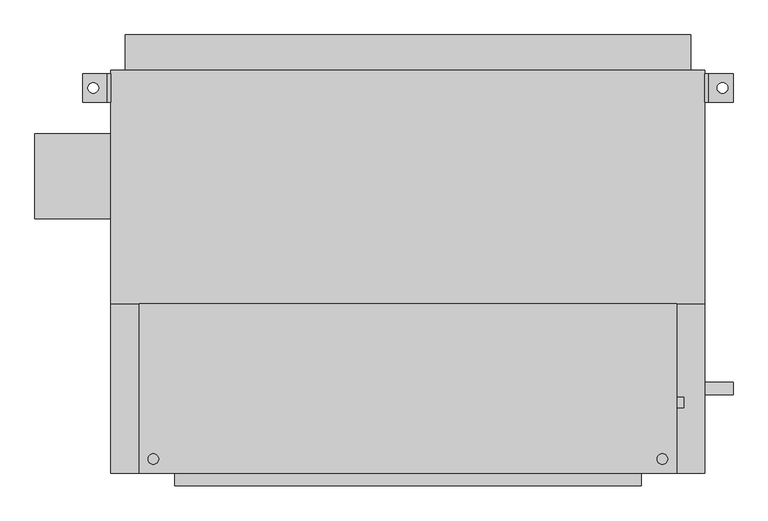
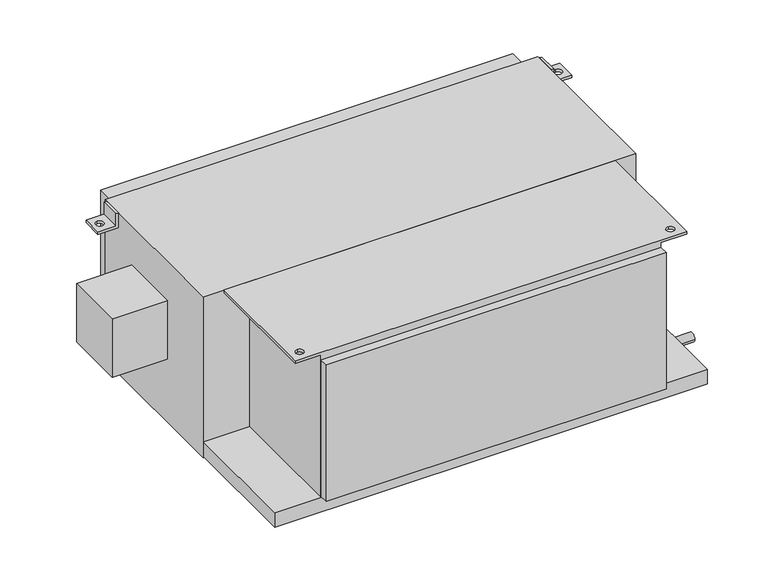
"""IFC4 building model written with IfcOpenShell, lengths in millimetres: proxy geometry, Concealed_High_Capacity_Horizontal_Fan_Coil_Unit_With_Plenum_-_42DCA_-_CARRIER_-_2-Pipe_Cool-EHeat_RH_2022 : Size 14 - 277v/60Hz/1Ph - 6 Row 10.0kW."""

from ifc_helpers import new_model, si_unit, point, frame, frame_2d, origin, place, context, project, spatial, polyline, circle_curve, trimmed, segment, composite_curve, outline, extrude, source, transform, mapped, element, save
from ifc_brep_helpers import plane_surface, revolved_surface, advanced_brep


def mechanical_equipment_4fc60d53(model_context):
    return source(origin(), model_context, "Body", "SolidModel", [
        advanced_brep(
        [(-381.0, 327.025, -38.1), (-431.8, 327.025, -38.1), (-431.8, 327.025, -31.75), (-387.35, 327.025, -31.75), (-387.35, 327.025, 0.0), (-381.0, 327.025, 0.0), (-381.0, 276.225, -38.1), (-381.0, 276.225, 0.0), (-387.35, 276.225, 0.0), (-387.35, 276.225, -31.75), (-431.8, 276.225, -31.75), (-431.8, 276.225, -38.1), (-412.75, 292.1, -38.1), (-412.75, 311.15, -38.1), (-412.75, 311.15, -31.75), (-412.75, 292.1, -31.75)],
        [
            (0, 1),
            (1, 2),
            (2, 3),
            (3, 4),
            (4, 5),
            (5, 0),
            (6, 7),
            (7, 8),
            (8, 9),
            (9, 10),
            (10, 11),
            (11, 6),
            (0, 6),
            (11, 1),
            (12, 13, circle_curve(frame((-412.75, 301.625, -38.1), z_axis=(0.0, 0.0, 1.0), x_axis=(0.0, -1.0, 0.0)), 9.525)),
            (13, 12, circle_curve(frame((-412.75, 301.625, -38.1), z_axis=(0.0, 0.0, 1.0), x_axis=(0.0, -1.0, 0.0)), 9.525)),
            (10, 2),
            (9, 3),
            (14, 15, circle_curve(frame((-412.75, 301.625, -31.75), z_axis=(0.0, 0.0, -1.0), x_axis=(0.0, -1.0, 0.0)), 9.525)),
            (15, 14, circle_curve(frame((-412.75, 301.625, -31.75), z_axis=(0.0, 0.0, -1.0), x_axis=(0.0, -1.0, 0.0)), 9.525)),
            (8, 4),
            (7, 5),
            (14, 13),
            (12, 15),
        ],
        [
            plane_surface(frame((-381.0, 327.025, -38.1), z_axis=(0.0, 1.0, 0.0), x_axis=(-1.0, 0.0, 0.0))),
            plane_surface(frame((-381.0, 276.225, -38.1), z_axis=(0.0, -1.0, 0.0), x_axis=(1.0, 0.0, 0.0))),
            plane_surface(frame((-381.0, 327.025, -38.1), z_axis=(0.0, 0.0, -1.0), x_axis=(0.0, -1.0, 0.0))),
            plane_surface(frame((-431.8, 327.025, -38.1), z_axis=(-1.0, 0.0, 0.0), x_axis=(0.0, -1.0, 0.0))),
            plane_surface(frame((-431.8, 327.025, -31.75), z_axis=(0.0, 0.0, 1.0), x_axis=(0.0, -1.0, 0.0))),
            plane_surface(frame((-387.35, 327.025, -31.75), z_axis=(-1.0, 0.0, 0.0), x_axis=(0.0, -1.0, 0.0))),
            plane_surface(frame((-387.35, 327.025, 0.0), z_axis=(0.0, 0.0, 1.0), x_axis=(0.0, -1.0, 0.0))),
            plane_surface(frame((-381.0, 327.025, 0.0), z_axis=(1.0, 0.0, 0.0), x_axis=(0.0, -1.0, 0.0))),
            revolved_surface(polyline([(-412.75, 292.1, -38.1), (-412.75, 292.1, -31.75)]), (-412.75, 301.625, -31.75), (0.0, 0.0, -1.0)),
        ],
        [
            (0, [[1, 2, 3, 4, 5, 6]]),
            (1, [[7, 8, 9, 10, 11, 12]]),
            (2, [[-1, 13, -12, 14], [15, 16]]),
            (3, [[-2, -14, -11, 17]]),
            (4, [[-3, -17, -10, 18], [19, 20]]),
            (5, [[-4, -18, -9, 21]]),
            (6, [[-5, -21, -8, 22]]),
            (7, [[-6, -22, -7, -13]]),
            (8, [[23, -15, 24, -19]]),
            (8, [[-23, -20, -24, -16]]),
        ],
    ),
        advanced_brep(
        [(685.8, 327.025, -38.1), (685.8, 327.025, 0.0), (692.15, 327.025, 0.0), (692.15, 327.025, -31.75), (736.6, 327.025, -31.75), (736.6, 327.025, -38.1), (685.8, 276.225, -38.1), (736.6, 276.225, -38.1), (736.6, 276.225, -31.75), (692.15, 276.225, -31.75), (692.15, 276.225, 0.0), (685.8, 276.225, 0.0), (717.55, 311.15, -31.75), (717.55, 292.1, -31.75), (717.55, 292.1, -38.1), (717.55, 311.15, -38.1)],
        [
            (0, 1),
            (1, 2),
            (2, 3),
            (3, 4),
            (4, 5),
            (5, 0),
            (6, 7),
            (7, 8),
            (8, 9),
            (9, 10),
            (10, 11),
            (11, 6),
            (0, 6),
            (11, 1),
            (10, 2),
            (9, 3),
            (8, 4),
            (12, 13, circle_curve(frame((717.55, 301.625, -31.75), z_axis=(0.0, 0.0, -1.0), x_axis=(0.0, -1.0, 0.0)), 9.525)),
            (13, 12, circle_curve(frame((717.55, 301.625, -31.75), z_axis=(0.0, 0.0, -1.0), x_axis=(0.0, -1.0, 0.0)), 9.525)),
            (7, 5),
            (14, 15, circle_curve(frame((717.55, 301.625, -38.1), z_axis=(0.0, 0.0, 1.0), x_axis=(0.0, -1.0, 0.0)), 9.525)),
            (15, 14, circle_curve(frame((717.55, 301.625, -38.1), z_axis=(0.0, 0.0, 1.0), x_axis=(0.0, -1.0, 0.0)), 9.525)),
            (12, 15),
            (14, 13),
        ],
        [
            plane_surface(frame((-381.0, 327.025, -38.1), z_axis=(0.0, 1.0, 0.0), x_axis=(-1.0, 0.0, 0.0))),
            plane_surface(frame((-381.0, 276.225, -38.1), z_axis=(0.0, -1.0, 0.0), x_axis=(1.0, 0.0, 0.0))),
            plane_surface(frame((685.8, 327.025, -38.1), z_axis=(-1.0, 0.0, 0.0), x_axis=(0.0, -1.0, 0.0))),
            plane_surface(frame((685.8, 327.025, 0.0), z_axis=(0.0, 0.0, 1.0), x_axis=(0.0, -1.0, 0.0))),
            plane_surface(frame((692.15, 327.025, 0.0), z_axis=(1.0, 0.0, 0.0), x_axis=(0.0, -1.0, 0.0))),
            plane_surface(frame((692.15, 327.025, -31.75), z_axis=(0.0, 0.0, 1.0), x_axis=(0.0, -1.0, 0.0))),
            plane_surface(frame((736.6, 327.025, -31.75), z_axis=(1.0, 0.0, 0.0), x_axis=(0.0, -1.0, 0.0))),
            plane_surface(frame((736.6, 327.025, -38.1), z_axis=(0.0, 0.0, -1.0), x_axis=(0.0, -1.0, 0.0))),
            revolved_surface(polyline([(717.55, 292.1, -38.1), (717.55, 292.1, -31.75)]), (717.55, 301.625, -31.75), (0.0, 0.0, -1.0)),
        ],
        [
            (0, [[1, 2, 3, 4, 5, 6]]),
            (1, [[7, 8, 9, 10, 11, 12]]),
            (2, [[-1, 13, -12, 14]]),
            (3, [[-2, -14, -11, 15]]),
            (4, [[-3, -15, -10, 16]]),
            (5, [[-4, -16, -9, 17], [18, 19]]),
            (6, [[-5, -17, -8, 20]]),
            (7, [[-6, -20, -7, -13], [21, 22]]),
            (8, [[23, -21, 24, -18]]),
            (8, [[-23, -19, -24, -22]]),
        ],
    ),
        advanced_brep(
        [(571.5, -85.725, -377.825), (571.5, -390.525, -377.825), (-266.7, -390.525, -377.825), (-266.7, -85.725, -377.825), (-266.7, -390.525, -6.35), (-266.7, -85.725, -6.35), (571.5, -85.725, -6.35), (571.5, -390.525, -6.35), (-330.2, -85.725, -6.35), (-330.2, -390.525, -6.35), (-304.8, -355.6, -6.35), (-304.8, -374.65, -6.35), (635.0, -85.725, -6.35), (635.0, -390.525, -6.35), (609.6, -355.6, -6.35), (609.6, -374.65, -6.35), (-330.2, -85.725, 0.0), (-330.2, -390.525, 0.0), (635.0, -390.525, 0.0), (635.0, -85.725, 0.0), (-304.8, -374.65, 0.0), (-304.8, -355.6, 0.0), (609.6, -374.65, 0.0), (609.6, -355.6, 0.0)],
        [
            (0, 1),
            (1, 2),
            (2, 3),
            (3, 0),
            (2, 4),
            (4, 5),
            (5, 3),
            (0, 6),
            (6, 7),
            (7, 1),
            (8, 5),
            (4, 9),
            (9, 8),
            (10, 11, circle_curve(frame((-304.8, -365.125, -6.35), z_axis=(0.0, 0.0, 1.0), x_axis=(0.0, 1.0, 0.0)), 9.525)),
            (11, 10, circle_curve(frame((-304.8, -365.125, -6.35), z_axis=(0.0, 0.0, 1.0), x_axis=(0.0, 1.0, 0.0)), 9.525)),
            (12, 13),
            (13, 7),
            (6, 12),
            (14, 15, circle_curve(frame((609.6, -365.125, -6.35), z_axis=(0.0, 0.0, 1.0), x_axis=(0.0, 1.0, 0.0)), 9.525)),
            (15, 14, circle_curve(frame((609.6, -365.125, -6.35), z_axis=(0.0, 0.0, 1.0), x_axis=(0.0, 1.0, 0.0)), 9.525)),
            (16, 17),
            (17, 18),
            (18, 19),
            (19, 16),
            (20, 21, circle_curve(frame((-304.8, -365.125, 0.0), z_axis=(0.0, 0.0, -1.0), x_axis=(0.0, 1.0, 0.0)), 9.525)),
            (21, 20, circle_curve(frame((-304.8, -365.125, 0.0), z_axis=(0.0, 0.0, -1.0), x_axis=(0.0, 1.0, 0.0)), 9.525)),
            (22, 23, circle_curve(frame((609.6, -365.125, 0.0), z_axis=(0.0, 0.0, -1.0), x_axis=(0.0, 1.0, 0.0)), 9.525)),
            (23, 22, circle_curve(frame((609.6, -365.125, 0.0), z_axis=(0.0, 0.0, -1.0), x_axis=(0.0, 1.0, 0.0)), 9.525)),
            (9, 17),
            (16, 8),
            (13, 18),
            (19, 12),
            (20, 11),
            (10, 21),
            (22, 15),
            (14, 23),
        ],
        [
            plane_surface(frame((-266.7, -85.725, -377.825), z_axis=(0.0, 0.0, -1.0), x_axis=(1.0, 0.0, 0.0))),
            plane_surface(frame((-266.7, -85.725, 0.0), z_axis=(-1.0, 0.0, 0.0), x_axis=(0.0, 0.0, -1.0))),
            plane_surface(frame((571.5, -390.525, 0.0), z_axis=(1.0, 0.0, 0.0), x_axis=(0.0, 0.0, -1.0))),
            plane_surface(frame((-330.2, -85.725, -6.35), z_axis=(0.0, 0.0, -1.0), x_axis=(0.0, 1.0, 0.0))),
            plane_surface(frame((-330.2, -85.725, 0.0), z_axis=(0.0, 0.0, 1.0), x_axis=(0.0, -1.0, 0.0))),
            plane_surface(frame((-330.2, -85.725, 0.0), z_axis=(-1.0, 0.0, 0.0), x_axis=(0.0, 0.0, -1.0))),
            plane_surface(frame((-330.2, -390.525, 0.0), z_axis=(0.0, -1.0, 0.0), x_axis=(0.0, 0.0, -1.0))),
            plane_surface(frame((-266.7, -85.725, 0.0), z_axis=(0.0, 1.0, 0.0), x_axis=(0.0, 0.0, -1.0))),
            plane_surface(frame((635.0, -390.525, 0.0), z_axis=(1.0, 0.0, 0.0), x_axis=(0.0, 0.0, -1.0))),
            revolved_surface(polyline([(-304.8, -355.6, -6.35), (-304.8, -355.6, 0.0)]), (-304.8, -365.125, 0.0), (0.0, 0.0, -1.0)),
            revolved_surface(polyline([(609.6, -355.6, -6.35), (609.6, -355.6, 0.0)]), (609.6, -365.125, 0.0), (0.0, 0.0, -1.0)),
        ],
        [
            (0, [[1, 2, 3, 4]]),
            (1, [[-3, 5, 6, 7]]),
            (2, [[-1, 8, 9, 10]]),
            (3, [[11, -6, 12, 13], [14, 15]]),
            (3, [[16, 17, -9, 18], [19, 20]]),
            (4, [[21, 22, 23, 24], [25, 26], [27, 28]]),
            (5, [[-13, 29, -21, 30]]),
            (6, [[-12, -5, -2, -10, -17, 31, -22, -29]]),
            (7, [[-11, -30, -24, 32, -18, -8, -4, -7]]),
            (8, [[-16, -32, -23, -31]]),
            (9, [[33, -14, 34, -25]]),
            (9, [[-33, -26, -34, -15]]),
            (10, [[35, -19, 36, -27]]),
            (10, [[-35, -28, -36, -20]]),
        ],
    ),
        extrude(outline(polyline([(-355.6, 396.875), (660.4, 396.875), (660.4, 333.375), (-355.6, 333.375), (-355.6, 396.875)])), frame((0.0, 0.0, -381.0), z_axis=(0.0, 0.0, 1.0), x_axis=(1.0, 0.0, 0.0)), (0.0, 0.0, 1.0), 358.775),
        extrude(outline(composite_curve([segment(trimmed(circle_curve(frame_2d((-263.525, -76.2)), 9.525), [point((-254.0, -76.2))], [point((-273.05, -76.2))], False, "CARTESIAN"), True, "CONTINUOUS"), segment(trimmed(circle_curve(frame_2d((-263.525, -76.2)), 9.525), [point((-273.05, -76.2))], [point((-254.0, -76.2))], False, "CARTESIAN"), True, "CONTINUOUS")], self_intersect=False)), frame((571.5, 0.0, 0.0), z_axis=(1.0, 0.0, 0.0), x_axis=(0.0, 1.0, 0.0)), (0.0, 0.0, 1.0), 76.2),
        extrude(outline(composite_curve([segment(trimmed(circle_curve(frame_2d((-263.525, -301.625)), 9.525), [point((-254.0, -301.625))], [point((-273.05, -301.625))], False, "CARTESIAN"), True, "CONTINUOUS"), segment(trimmed(circle_curve(frame_2d((-263.525, -301.625)), 9.525), [point((-273.05, -301.625))], [point((-254.0, -301.625))], False, "CARTESIAN"), True, "CONTINUOUS")], self_intersect=False)), frame((571.5, 0.0, 0.0), z_axis=(1.0, 0.0, 0.0), x_axis=(0.0, 1.0, 0.0)), (0.0, 0.0, 1.0), 76.2),
        extrude(outline(composite_curve([segment(trimmed(circle_curve(frame_2d((-238.125, -403.225)), 11.1125), [point((-227.0125, -403.225))], [point((-249.2375, -403.225))], False, "CARTESIAN"), True, "CONTINUOUS"), segment(trimmed(circle_curve(frame_2d((-238.125, -403.225)), 11.1125), [point((-249.2375, -403.225))], [point((-227.0125, -403.225))], False, "CARTESIAN"), True, "CONTINUOUS")], self_intersect=False)), frame((685.8, 0.0, 0.0), z_axis=(1.0, 0.0, 0.0), x_axis=(0.0, 1.0, 0.0)), (0.0, 0.0, 1.0), 50.8),
        extrude(outline(polyline([(-517.525, 66.675), (-517.525, 219.075), (-381.0, 219.075), (-381.0, 66.675), (-517.525, 66.675)])), frame((0.0, 0.0, -254.0), z_axis=(0.0, 0.0, 1.0), x_axis=(1.0, 0.0, 0.0)), (0.0, 0.0, 1.0), 152.4),
        extrude(outline(polyline([(571.5, -412.75), (-266.7, -412.75), (-266.7, -390.525), (571.5, -390.525), (571.5, -412.75)])), frame((0.0, 0.0, -374.65), z_axis=(0.0, 0.0, 1.0), x_axis=(1.0, 0.0, 0.0)), (0.0, 0.0, 1.0), 355.6),
        extrude(outline(polyline([(685.8, -85.725), (-381.0, -85.725), (-381.0, 333.375), (685.8, 333.375), (685.8, -85.725)])), frame((0.0, 0.0, -419.1), z_axis=(0.0, 0.0, 1.0), x_axis=(1.0, 0.0, 0.0)), (0.0, 0.0, 1.0), 419.1),
        extrude(outline(polyline([(685.8, -85.725), (685.8, -390.525), (-381.0, -390.525), (-381.0, -85.725), (685.8, -85.725)])), frame((0.0, 0.0, -415.925), z_axis=(0.0, 0.0, 1.0), x_axis=(1.0, 0.0, 0.0)), (0.0, 0.0, 1.0), 38.1),
    ])


if __name__ == "__main__":
    model = new_model("IFC4")
    model_context = context("Model", 3, world=origin())
    ifc_project = project(units=[si_unit("LENGTHUNIT", "METRE", prefix="MILLI")], contexts=[model_context])
    site = spatial("IfcSite", under=ifc_project)
    building = spatial("IfcBuilding", under=site)
    placement = place(None, origin())
    mechanical_equipment_shape = mechanical_equipment_4fc60d53(model_context)
    element("IfcBuildingElementProxy", 1, Name="Concealed_High_Capacity_Horizontal_Fan_Coil_Unit_With_Plenum_-_42DCA_-_CARRIER_-_2-Pipe_Cool-EHeat_RH_2022 : Size 14 - 277v/60Hz/1Ph - 6 Row 10.0kW", ObjectType="Concealed_High_Capacity_Horizontal_Fan_Coil_Unit_With_Plenum_-_42DCA_-_CARRIER_-_2-Pipe_Cool-EHeat_RH_2022 : Size 14 - 277v/60Hz/1Ph - 6 Row 10.0kW", at=placement, inside=building, context=model_context, shape_type="MappedRepresentation", body=[
        mapped(mechanical_equipment_shape, transform((0.0, 0.0, 0.0), x_axis=(1.0, 0.0, 0.0), y_axis=(0.0, 1.0, 0.0), z_axis=(0.0, 0.0, 1.0))),
    ])
    save(model, "model.ifc")
